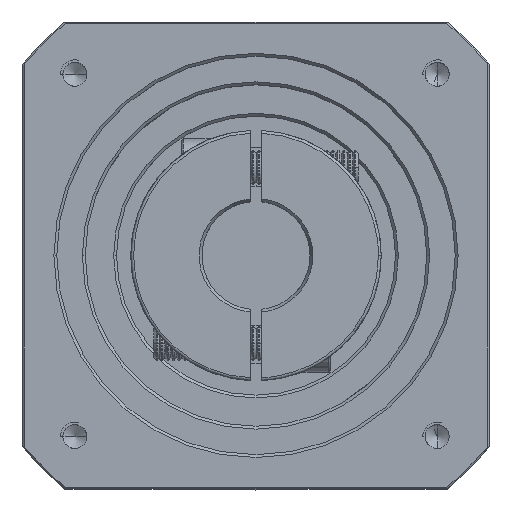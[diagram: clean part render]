
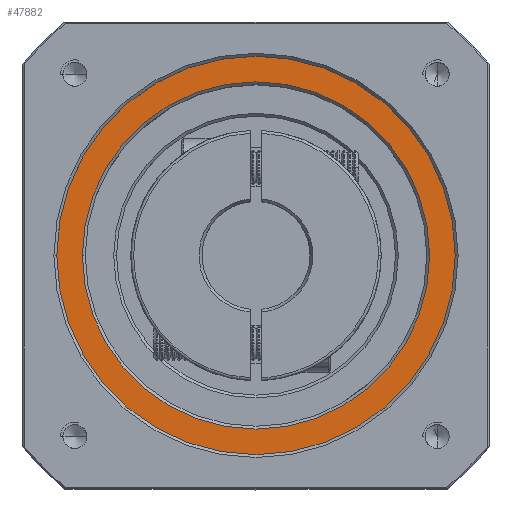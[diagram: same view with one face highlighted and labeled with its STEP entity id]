
A CAD part, top view. The second image highlights one B-rep face of the part: STEP entity #47882.
In plain terms, the highlighted planar face has unit normal (0, 0, 1).
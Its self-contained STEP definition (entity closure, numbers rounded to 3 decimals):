
#256 = CIRCLE ( 'NONE', #113033, 30.5 ) ;
#3532 = VERTEX_POINT ( 'NONE', #105142 ) ;
#11266 = DIRECTION ( 'NONE',  ( 0., 0., -1. ) ) ;
#17346 = EDGE_LOOP ( 'NONE', ( #33274, #61727 ) ) ;
#20866 = CARTESIAN_POINT ( 'NONE',  ( -86.36, 19.655, 17.325 ) ) ;
#26160 = CARTESIAN_POINT ( 'NONE',  ( -86.36, 19.655, 17.325 ) ) ;
#29378 = CIRCLE ( 'NONE', #115395, 35. ) ;
#30230 = DIRECTION ( 'NONE',  ( 1., 0., 0. ) ) ;
#32596 = VERTEX_POINT ( 'NONE', #80977 ) ;
#33274 = ORIENTED_EDGE ( 'NONE', *, *, #57697, .T. ) ;
#34267 = FACE_BOUND ( 'NONE', #40782, .T. ) ;
#35569 = DIRECTION ( 'NONE',  ( 1., 0., 0. ) ) ;
#37600 = ORIENTED_EDGE ( 'NONE', *, *, #83100, .T. ) ;
#38152 = CARTESIAN_POINT ( 'NONE',  ( -86.36, 19.655, 17.325 ) ) ;
#40782 = EDGE_LOOP ( 'NONE', ( #69907, #37600 ) ) ;
#42152 = CARTESIAN_POINT ( 'NONE',  ( -86.36, 19.655, 17.325 ) ) ;
#47136 = PLANE ( 'NONE',  #71131 ) ;
#47543 = DIRECTION ( 'NONE',  ( 1., 0., 0. ) ) ;
#47882 = ADVANCED_FACE ( 'NONE', ( #105730, #34267 ), #47136, .T. ) ;
#51500 = DIRECTION ( 'NONE',  ( 1., 0., 0. ) ) ;
#54666 = CARTESIAN_POINT ( 'NONE',  ( -51.36, 19.655, 17.325 ) ) ;
#57697 = EDGE_CURVE ( 'NONE', #120248, #92249, #29378, .T. ) ;
#60011 = AXIS2_PLACEMENT_3D ( 'NONE', #20866, #86049, #30230 ) ;
#61494 = CIRCLE ( 'NONE', #94550, 30.5 ) ;
#61727 = ORIENTED_EDGE ( 'NONE', *, *, #108649, .T. ) ;
#67183 = CARTESIAN_POINT ( 'NONE',  ( -86.36, 19.655, 17.325 ) ) ;
#69907 = ORIENTED_EDGE ( 'NONE', *, *, #101302, .T. ) ;
#71131 = AXIS2_PLACEMENT_3D ( 'NONE', #38152, #103367, #47543 ) ;
#76494 = DIRECTION ( 'NONE',  ( 1., 0., 0. ) ) ;
#80977 = CARTESIAN_POINT ( 'NONE',  ( -116.86, 19.655, 17.325 ) ) ;
#83100 = EDGE_CURVE ( 'NONE', #32596, #3532, #256, .T. ) ;
#86049 = DIRECTION ( 'NONE',  ( 0., 0., 1. ) ) ;
#91381 = DIRECTION ( 'NONE',  ( 0., 0., -1. ) ) ;
#92249 = VERTEX_POINT ( 'NONE', #100012 ) ;
#94550 = AXIS2_PLACEMENT_3D ( 'NONE', #67183, #11266, #76494 ) ;
#100012 = CARTESIAN_POINT ( 'NONE',  ( -121.36, 19.655, 17.325 ) ) ;
#101302 = EDGE_CURVE ( 'NONE', #3532, #32596, #61494, .T. ) ;
#103367 = DIRECTION ( 'NONE',  ( 0., 0., 1. ) ) ;
#105142 = CARTESIAN_POINT ( 'NONE',  ( -55.86, 19.655, 17.325 ) ) ;
#105730 = FACE_OUTER_BOUND ( 'NONE', #17346, .T. ) ;
#107334 = DIRECTION ( 'NONE',  ( 0., 0., 1. ) ) ;
#108649 = EDGE_CURVE ( 'NONE', #92249, #120248, #110597, .T. ) ;
#110597 = CIRCLE ( 'NONE', #60011, 35. ) ;
#113033 = AXIS2_PLACEMENT_3D ( 'NONE', #26160, #91381, #35569 ) ;
#115395 = AXIS2_PLACEMENT_3D ( 'NONE', #42152, #107334, #51500 ) ;
#120248 = VERTEX_POINT ( 'NONE', #54666 ) ;
